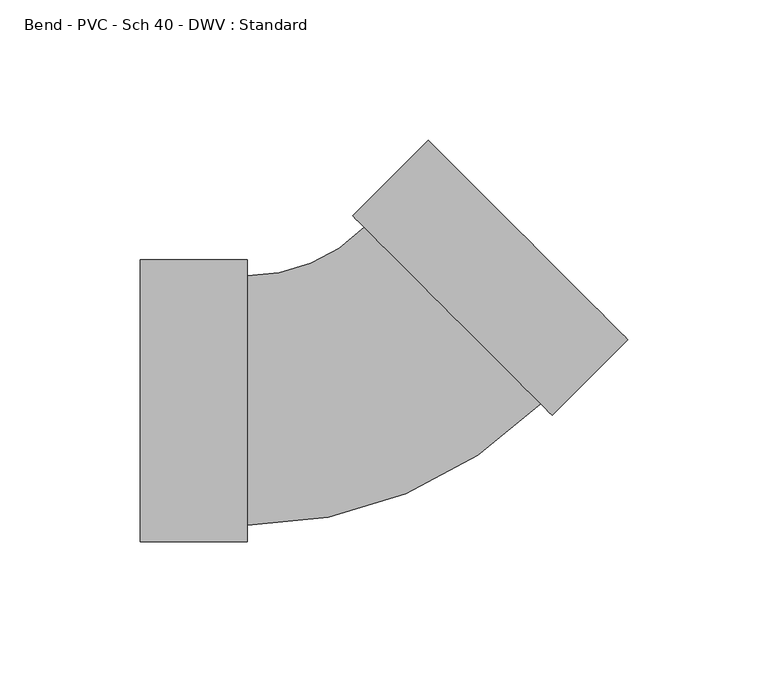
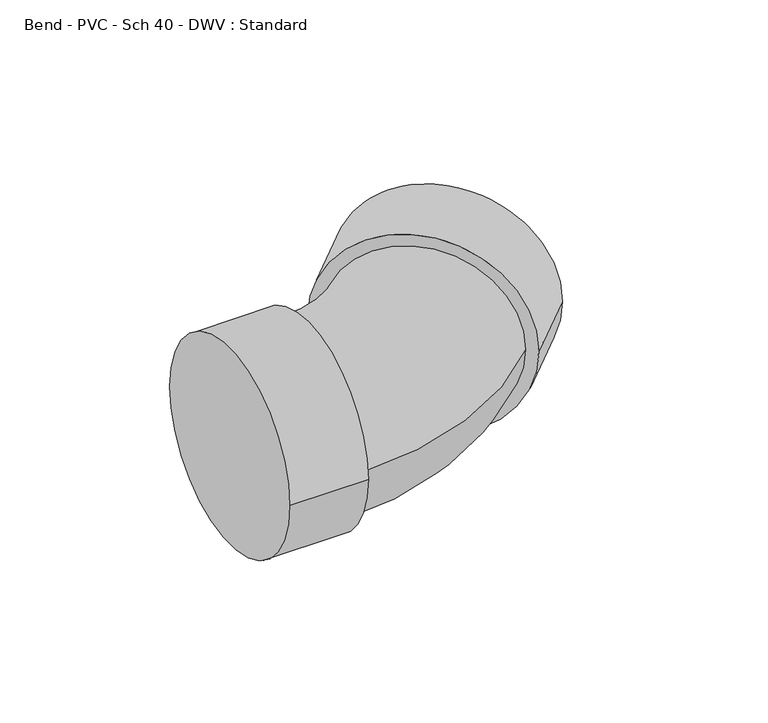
"""IFC4 building model written with IfcOpenShell, lengths in millimetres: pipe fitting geometry, Bend - PVC - Sch 40 - DWV : Standard."""

from ifc_helpers import new_model, si_unit, point, frame, origin, place, context, project, spatial, circle_curve, ellipse_curve, trimmed, source, transform, mapped, element, save
from ifc_brep_helpers import plane_surface, cylinder_surface, revolved_surface, advanced_brep


def bend_pvc_sch_40_dwv_standard_7045725e(model_context):
    return source(origin(), model_context, "Body", "AdvancedBrep", [
        advanced_brep(
        [(-80.9752, -50.2666, 0.0), (-80.9752, 50.2666, 0.0), (-42.8752, -50.2666, 0.0), (-42.8752, 50.2666, 0.0), (-42.8752, -44.45, 0.0), (-42.8752, 44.45, 0.0), (-1.1278206, 61.7479821, 0.0), (61.7484968, -1.0992829, 0.0), (65.8624044, -5.2112896, 0.0), (-5.2417282, 65.8599889, 0.0), (92.7969465, 21.7357035, 0.0), (21.6928139, 92.806982, 0.0)],
        [
            (0, 1, circle_curve(frame((-80.9752, 0.0, 0.0), z_axis=(-1.0, 0.0, 0.0), x_axis=(0.0, 1.0, 0.0)), 50.2666)),
            (1, 0, circle_curve(frame((-80.9752, 0.0, 0.0), z_axis=(-1.0, 0.0, 0.0), x_axis=(0.0, 1.0, 0.0)), 50.2666)),
            (2, 3, circle_curve(frame((-42.8752, 0.0, 0.0), z_axis=(1.0, 0.0, 0.0), x_axis=(0.0, 1.0, 0.0)), 50.2666)),
            (3, 2, circle_curve(frame((-42.8752, 0.0, 0.0), z_axis=(1.0, 0.0, 0.0), x_axis=(0.0, 1.0, 0.0)), 50.2666)),
            (4, 5, circle_curve(frame((-42.8752, 0.0, 0.0), z_axis=(-1.0, 0.0, 0.0), x_axis=(0.0, 1.0, 0.0)), 44.45)),
            (5, 4, circle_curve(frame((-42.8752, 0.0, 0.0), z_axis=(-1.0, 0.0, 0.0), x_axis=(0.0, 1.0, 0.0)), 44.45)),
            (0, 2),
            (3, 1),
            (6, 5, circle_curve(frame((-42.8752, 103.4760719, 0.0), z_axis=(0.0, 0.0, -1.0), x_axis=(0.0, -1.0, 0.0)), 59.0260719)),
            (4, 7, circle_curve(frame((-42.8752, 103.4760719, 0.0), z_axis=(0.0, 0.0, 1.0), x_axis=(0.0, -1.0, 0.0)), 147.9260719)),
            (7, 6, circle_curve(frame((30.3103381, 30.3243496, 0.0), z_axis=(-0.7069433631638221, -0.7072701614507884, 0.0), x_axis=(-0.7072701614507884, 0.7069433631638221, 0.0)), 44.45)),
            (6, 7, circle_curve(frame((30.3103381, 30.3243496, 0.0), z_axis=(-0.7069433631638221, -0.7072701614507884, 0.0), x_axis=(-0.7072701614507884, 0.7069433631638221, 0.0)), 44.45)),
            (8, 9, circle_curve(frame((30.3103381, 30.3243496, 0.0), z_axis=(-0.706943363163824, -0.7072701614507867, 0.0), x_axis=(-0.7072701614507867, 0.706943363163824, 0.0)), 50.2666)),
            (9, 8, circle_curve(frame((30.3103381, 30.3243496, 0.0), z_axis=(-0.706943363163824, -0.7072701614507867, 0.0), x_axis=(-0.7072701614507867, 0.706943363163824, 0.0)), 50.2666)),
            (10, 11, circle_curve(frame((57.2448802, 57.2713428, 0.0), z_axis=(0.706943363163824, 0.7072701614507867, 0.0), x_axis=(-0.7072701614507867, 0.706943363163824, 0.0)), 50.2666)),
            (11, 10, circle_curve(frame((57.2448802, 57.2713428, 0.0), z_axis=(0.706943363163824, 0.7072701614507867, 0.0), x_axis=(-0.7072701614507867, 0.706943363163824, 0.0)), 50.2666)),
            (8, 10),
            (11, 9),
        ],
        [
            plane_surface(frame((-80.9752, 0.0, 0.0), z_axis=(-1.0, 0.0, 0.0), x_axis=(0.0, 0.0, 1.0))),
            plane_surface(frame((-42.8752, 0.0, 0.0), z_axis=(1.0, 0.0, 0.0), x_axis=(0.0, 0.0, 1.0))),
            cylinder_surface(frame((-80.9752, 0.0, 0.0), z_axis=(-1.0, 0.0, 0.0), x_axis=(0.0, 1.0, 0.0)), 50.2666),
            revolved_surface(trimmed(ellipse_curve(frame((-42.8752, 0.0, 0.0), z_axis=(-1.0, 0.0, 0.0), x_axis=(0.0, 1.0, 0.0)), 44.45, 44.45), [point((-42.8752, -44.45, 0.0))], [point((-42.8752, 44.45, 0.0))], True, "CARTESIAN"), (-42.8752, 103.4760719, 0.0), (0.0, 0.0, 1.0)),
            revolved_surface(trimmed(ellipse_curve(frame((-42.8752, 0.0, 0.0), z_axis=(-1.0, 0.0, 0.0), x_axis=(0.0, 1.0, 0.0)), 44.45, 44.45), [point((-42.8752, 44.45, 0.0))], [point((-42.8752, -44.45, 0.0))], True, "CARTESIAN"), (-42.8752, 103.4760719, 0.0), (0.0, 0.0, 1.0)),
            plane_surface(frame((30.3103381, 30.3243496, 0.0), z_axis=(-0.706943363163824, -0.7072701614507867, 0.0), x_axis=(0.0, 0.0, 1.0))),
            plane_surface(frame((57.2448802, 57.2713428, 0.0), z_axis=(0.706943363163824, 0.7072701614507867, 0.0), x_axis=(0.0, 0.0, 1.0))),
            cylinder_surface(frame((30.3103381, 30.3243496, 0.0), z_axis=(-0.706943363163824, -0.7072701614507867, 0.0), x_axis=(-0.7072701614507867, 0.706943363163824, 0.0)), 50.2666),
        ],
        [
            (0, [[1, 2]]),
            (1, [[3, 4], [5, 6]]),
            (2, [[-1, 7, -4, 8]]),
            (2, [[-2, -8, -3, -7]]),
            (3, [[9, -5, 10, 11]]),
            (4, [[-9, 12, -10, -6]]),
            (5, [[13, 14], [-11, -12]]),
            (6, [[15, 16]]),
            (7, [[-13, 17, -16, 18]]),
            (7, [[-14, -18, -15, -17]]),
        ],
    ),
    ])


if __name__ == "__main__":
    model = new_model("IFC4")
    model_context = context("Model", 3, world=origin())
    ifc_project = project(units=[si_unit("LENGTHUNIT", "METRE", prefix="MILLI")], contexts=[model_context])
    site = spatial("IfcSite", under=ifc_project)
    building = spatial("IfcBuilding", under=site)
    placement = place(None, origin())
    bend_pvc_sch_40_dwv_standard_shape = bend_pvc_sch_40_dwv_standard_7045725e(model_context)
    element("IfcPipeFitting", 1, ObjectType="Bend - PVC - Sch 40 - DWV : Standard", at=placement, inside=building, context=model_context, shape_type="MappedRepresentation", body=[
        mapped(bend_pvc_sch_40_dwv_standard_shape, transform((0.0, 0.0, 0.0), x_axis=(1.0, 0.0, 0.0), y_axis=(0.0, 1.0, 0.0), z_axis=(0.0, 0.0, 1.0))),
    ])
    save(model, "model.ifc")
